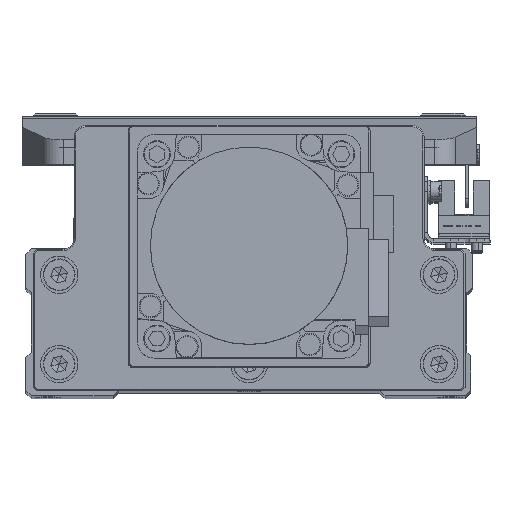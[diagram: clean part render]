
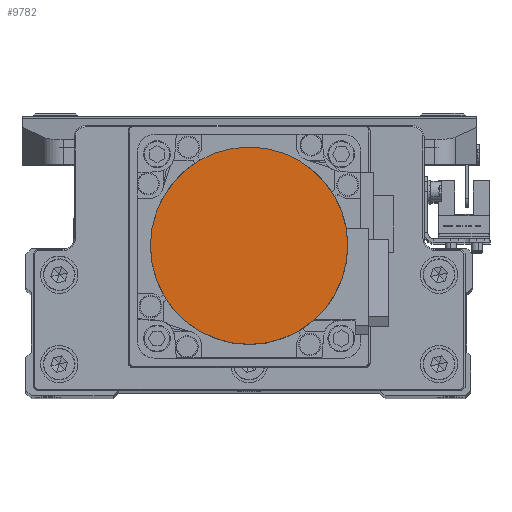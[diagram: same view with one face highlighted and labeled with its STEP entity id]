
A CAD part, top view. The second image highlights one B-rep face of the part: STEP entity #9782.
In plain terms, the highlighted planar face has unit normal (0, 0, 1) as drawn and (0, 0, -1) by its records, which use the part's own axes.
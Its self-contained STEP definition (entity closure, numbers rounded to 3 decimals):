
#217 = CARTESIAN_POINT ( 'NONE',  ( 0., 0., -109.7 ) ) ;
#3609 = DIRECTION ( 'NONE',  ( -1., 0., 0. ) ) ;
#5222 = CIRCLE ( 'NONE', #28691, 26.5 ) ;
#6248 = CARTESIAN_POINT ( 'NONE',  ( -26.5, 0., -109.7 ) ) ;
#7822 = AXIS2_PLACEMENT_3D ( 'NONE', #217, #13041, #25842 ) ;
#9782 = ADVANCED_FACE ( 'NONE', ( #16174 ), #28985, .F. ) ;
#10670 = CARTESIAN_POINT ( 'NONE',  ( 0., 0., -109.7 ) ) ;
#10864 = EDGE_LOOP ( 'NONE', ( #16493, #39415 ) ) ;
#13041 = DIRECTION ( 'NONE',  ( 0., 0., 1. ) ) ;
#16174 = FACE_OUTER_BOUND ( 'NONE', #10864, .T. ) ;
#16392 = AXIS2_PLACEMENT_3D ( 'NONE', #10670, #23479, #36277 ) ;
#16493 = ORIENTED_EDGE ( 'NONE', *, *, #31822, .F. ) ;
#19573 = CARTESIAN_POINT ( 'NONE',  ( 0., 0., -109.7 ) ) ;
#23479 = DIRECTION ( 'NONE',  ( 0., 0., 1. ) ) ;
#24467 = EDGE_CURVE ( 'NONE', #37366, #26013, #34497, .T. ) ;
#25842 = DIRECTION ( 'NONE',  ( 1., 0., 0. ) ) ;
#26013 = VERTEX_POINT ( 'NONE', #6248 ) ;
#28691 = AXIS2_PLACEMENT_3D ( 'NONE', #19573, #32362, #3609 ) ;
#28985 = PLANE ( 'NONE',  #7822 ) ;
#31822 = EDGE_CURVE ( 'NONE', #26013, #37366, #5222, .T. ) ;
#32362 = DIRECTION ( 'NONE',  ( 0., 0., 1. ) ) ;
#34497 = CIRCLE ( 'NONE', #16392, 26.5 ) ;
#35037 = CARTESIAN_POINT ( 'NONE',  ( 26.5, 0., -109.7 ) ) ;
#36277 = DIRECTION ( 'NONE',  ( 1., 0., 0. ) ) ;
#37366 = VERTEX_POINT ( 'NONE', #35037 ) ;
#39415 = ORIENTED_EDGE ( 'NONE', *, *, #24467, .F. ) ;
